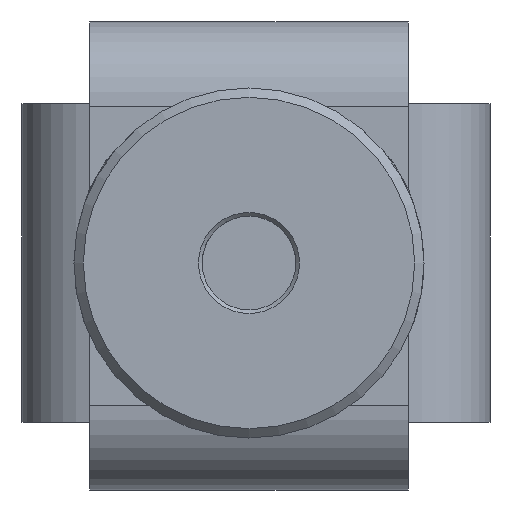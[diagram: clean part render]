
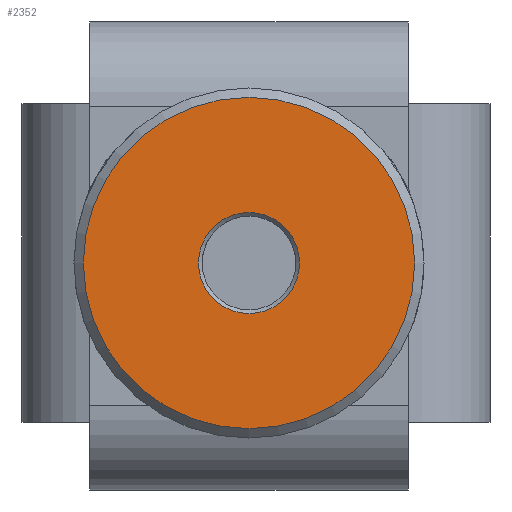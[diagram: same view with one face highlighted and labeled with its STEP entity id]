
A CAD part, front view. The second image highlights one B-rep face of the part: STEP entity #2352.
In plain terms, the highlighted planar face has unit normal (0, -1, 0).
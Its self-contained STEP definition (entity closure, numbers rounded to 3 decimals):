
#424=PLANE('',#2585);
#493=FACE_BOUND('',#818,.T.);
#619=FACE_OUTER_BOUND('',#817,.T.);
#817=EDGE_LOOP('',(#1801));
#818=EDGE_LOOP('',(#1802));
#961=CIRCLE('',#2582,2.7);
#963=CIRCLE('',#2586,8.85);
#1121=VERTEX_POINT('',#4000);
#1123=VERTEX_POINT('',#4006);
#1369=EDGE_CURVE('',#1121,#1121,#961,.T.);
#1371=EDGE_CURVE('',#1123,#1123,#963,.T.);
#1801=ORIENTED_EDGE('',*,*,#1371,.F.);
#1802=ORIENTED_EDGE('',*,*,#1369,.F.);
#2352=ADVANCED_FACE('',(#619,#493),#424,.F.);
#2582=AXIS2_PLACEMENT_3D('',#4001,#3116,#3117);
#2585=AXIS2_PLACEMENT_3D('',#4005,#3122,#3123);
#2586=AXIS2_PLACEMENT_3D('',#4007,#3124,#3125);
#3116=DIRECTION('center_axis',(0.,-1.,0.));
#3117=DIRECTION('ref_axis',(-0.5,0.,-0.866));
#3122=DIRECTION('center_axis',(0.,1.,0.));
#3123=DIRECTION('ref_axis',(-0.5,0.,-0.866));
#3124=DIRECTION('center_axis',(0.,1.,0.));
#3125=DIRECTION('ref_axis',(-0.5,0.,-0.866));
#4000=CARTESIAN_POINT('',(0.975,-15.6,2.338));
#4001=CARTESIAN_POINT('Origin',(-0.375,-15.6,0.));
#4005=CARTESIAN_POINT('Origin',(-0.375,-15.6,0.));
#4006=CARTESIAN_POINT('',(4.05,-15.6,7.664));
#4007=CARTESIAN_POINT('Origin',(-0.375,-15.6,0.));
